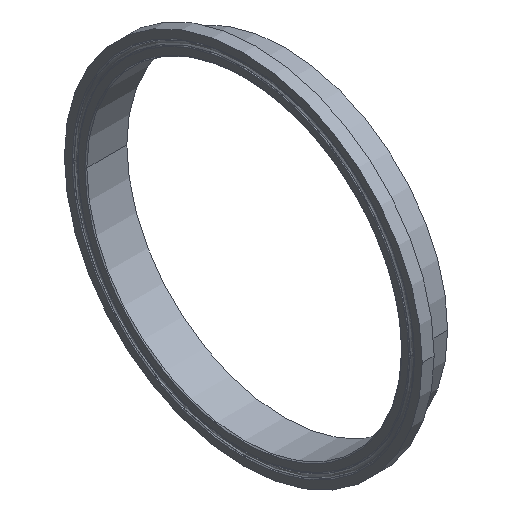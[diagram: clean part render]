
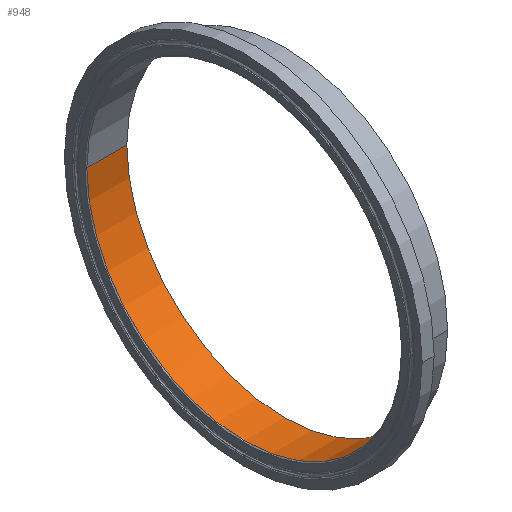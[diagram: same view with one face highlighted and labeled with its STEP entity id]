
A CAD part, isometric view. The second image highlights one B-rep face of the part: STEP entity #948.
In plain terms, the highlighted cylindrical face has radius 73.431 mm (diameter 146.863 mm), a partial arc.
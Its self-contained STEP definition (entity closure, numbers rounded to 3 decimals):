
#4 = AXIS2_PLACEMENT_3D ( 'NONE', #1160, #1017, #882 ) ;
#36 = CARTESIAN_POINT ( 'NONE',  ( 0., 0., 0. ) ) ;
#100 = CIRCLE ( 'NONE', #226, 73.431 ) ;
#117 = EDGE_CURVE ( 'NONE', #1103, #1238, #142, .T. ) ;
#142 = CIRCLE ( 'NONE', #1261, 73.431 ) ;
#148 = ORIENTED_EDGE ( 'NONE', *, *, #182, .F. ) ;
#182 = EDGE_CURVE ( 'NONE', #1238, #1465, #572, .T. ) ;
#226 = AXIS2_PLACEMENT_3D ( 'NONE', #36, #297, #600 ) ;
#297 = DIRECTION ( 'NONE',  ( -1., 0., 0. ) ) ;
#325 = CARTESIAN_POINT ( 'NONE',  ( -18.643, -73.431, 0. ) ) ;
#328 = CYLINDRICAL_SURFACE ( 'NONE', #4, 73.431 ) ;
#367 = CARTESIAN_POINT ( 'NONE',  ( 45.786, -73.431, 0. ) ) ;
#524 = CARTESIAN_POINT ( 'NONE',  ( 45.786, 73.431, 0. ) ) ;
#528 = DIRECTION ( 'NONE',  ( 1., 0., 0. ) ) ;
#554 = DIRECTION ( 'NONE',  ( 1., 0., 0. ) ) ;
#572 = LINE ( 'NONE', #524, #614 ) ;
#577 = CARTESIAN_POINT ( 'NONE',  ( 0., -73.431, 0. ) ) ;
#596 = DIRECTION ( 'NONE',  ( 0., 1., 0. ) ) ;
#600 = DIRECTION ( 'NONE',  ( 0., 1., 0. ) ) ;
#614 = VECTOR ( 'NONE', #554, 1000. ) ;
#621 = EDGE_CURVE ( 'NONE', #1103, #1503, #1256, .T. ) ;
#623 = CARTESIAN_POINT ( 'NONE',  ( 0., 73.431, 0. ) ) ;
#627 = CARTESIAN_POINT ( 'NONE',  ( -18.643, 0., 0. ) ) ;
#634 = DIRECTION ( 'NONE',  ( 1., 0., 0. ) ) ;
#831 = CARTESIAN_POINT ( 'NONE',  ( -18.643, 73.431, 0. ) ) ;
#876 = EDGE_CURVE ( 'NONE', #1465, #1503, #100, .T. ) ;
#882 = DIRECTION ( 'NONE',  ( 0., 1., 0. ) ) ;
#948 = ADVANCED_FACE ( 'NONE', ( #986 ), #328, .F. ) ;
#986 = FACE_OUTER_BOUND ( 'NONE', #1418, .T. ) ;
#1017 = DIRECTION ( 'NONE',  ( 1., 0., 0. ) ) ;
#1103 = VERTEX_POINT ( 'NONE', #325 ) ;
#1160 = CARTESIAN_POINT ( 'NONE',  ( 45.786, 0., 0. ) ) ;
#1187 = VECTOR ( 'NONE', #528, 1000. ) ;
#1238 = VERTEX_POINT ( 'NONE', #831 ) ;
#1256 = LINE ( 'NONE', #367, #1187 ) ;
#1261 = AXIS2_PLACEMENT_3D ( 'NONE', #627, #634, #596 ) ;
#1418 = EDGE_LOOP ( 'NONE', ( #1868, #1848, #1558, #148 ) ) ;
#1465 = VERTEX_POINT ( 'NONE', #623 ) ;
#1503 = VERTEX_POINT ( 'NONE', #577 ) ;
#1558 = ORIENTED_EDGE ( 'NONE', *, *, #876, .F. ) ;
#1848 = ORIENTED_EDGE ( 'NONE', *, *, #621, .T. ) ;
#1868 = ORIENTED_EDGE ( 'NONE', *, *, #117, .F. ) ;
